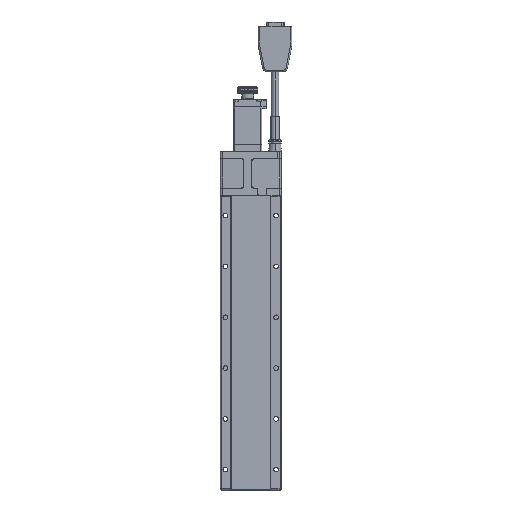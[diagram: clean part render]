
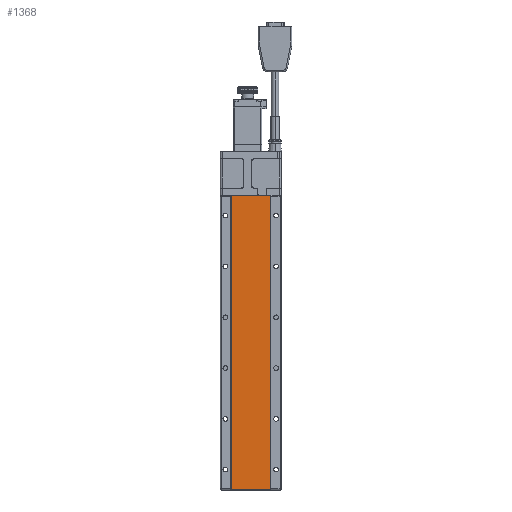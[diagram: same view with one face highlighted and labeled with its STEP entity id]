
A CAD part, front view. The second image highlights one B-rep face of the part: STEP entity #1368.
In plain terms, the highlighted planar face has unit normal (0, -1, 0).
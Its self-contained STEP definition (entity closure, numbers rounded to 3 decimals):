
#1368 = ADVANCED_FACE ( 'NONE', ( #96728 ), #139840, .F. ) ;
#2557 = EDGE_CURVE ( 'NONE', #75787, #62870, #57962, .T. ) ;
#3072 = DIRECTION ( 'NONE',  ( 0., 0., -1. ) ) ;
#4294 = CARTESIAN_POINT ( 'NONE',  ( 19.3, 0.8, 0.2 ) ) ;
#10461 = CARTESIAN_POINT ( 'NONE',  ( -19.3, 0.8, 289.8 ) ) ;
#14382 = CARTESIAN_POINT ( 'NONE',  ( -19.3, 0.8, 0.2 ) ) ;
#19198 = EDGE_CURVE ( 'NONE', #62870, #47698, #118314, .T. ) ;
#21468 = CARTESIAN_POINT ( 'NONE',  ( -19.3, 0.8, 289.8 ) ) ;
#32216 = VERTEX_POINT ( 'NONE', #107710 ) ;
#32345 = DIRECTION ( 'NONE',  ( -1., 0., 0. ) ) ;
#33439 = DIRECTION ( 'NONE',  ( -1., 0., 0. ) ) ;
#38034 = EDGE_LOOP ( 'NONE', ( #131911, #57667, #135319, #128763 ) ) ;
#39259 = CARTESIAN_POINT ( 'NONE',  ( 19.3, 0.8, 289.8 ) ) ;
#40864 = DIRECTION ( 'NONE',  ( 0., 1., 0. ) ) ;
#44774 = LINE ( 'NONE', #14382, #137708 ) ;
#47698 = VERTEX_POINT ( 'NONE', #137364 ) ;
#54197 = EDGE_CURVE ( 'NONE', #47698, #32216, #44774, .T. ) ;
#57667 = ORIENTED_EDGE ( 'NONE', *, *, #88722, .T. ) ;
#57962 = LINE ( 'NONE', #4294, #106176 ) ;
#59500 = AXIS2_PLACEMENT_3D ( 'NONE', #10461, #40864, #32345 ) ;
#62870 = VERTEX_POINT ( 'NONE', #39259 ) ;
#63494 = VECTOR ( 'NONE', #131405, 1000. ) ;
#75787 = VERTEX_POINT ( 'NONE', #127692 ) ;
#88323 = CARTESIAN_POINT ( 'NONE',  ( -19.3, 0.8, 0.2 ) ) ;
#88722 = EDGE_CURVE ( 'NONE', #32216, #75787, #133518, .T. ) ;
#96728 = FACE_OUTER_BOUND ( 'NONE', #38034, .T. ) ;
#97384 = VECTOR ( 'NONE', #33439, 1000. ) ;
#106176 = VECTOR ( 'NONE', #123034, 1000. ) ;
#107710 = CARTESIAN_POINT ( 'NONE',  ( -19.3, 0.8, 0.2 ) ) ;
#118314 = LINE ( 'NONE', #21468, #97384 ) ;
#123034 = DIRECTION ( 'NONE',  ( 0., 0., 1. ) ) ;
#127692 = CARTESIAN_POINT ( 'NONE',  ( 19.3, 0.8, 0.2 ) ) ;
#128763 = ORIENTED_EDGE ( 'NONE', *, *, #19198, .T. ) ;
#131405 = DIRECTION ( 'NONE',  ( 1., 0., 0. ) ) ;
#131911 = ORIENTED_EDGE ( 'NONE', *, *, #54197, .T. ) ;
#133518 = LINE ( 'NONE', #88323, #63494 ) ;
#135319 = ORIENTED_EDGE ( 'NONE', *, *, #2557, .T. ) ;
#137364 = CARTESIAN_POINT ( 'NONE',  ( -19.3, 0.8, 289.8 ) ) ;
#137708 = VECTOR ( 'NONE', #3072, 1000. ) ;
#139840 = PLANE ( 'NONE',  #59500 ) ;
